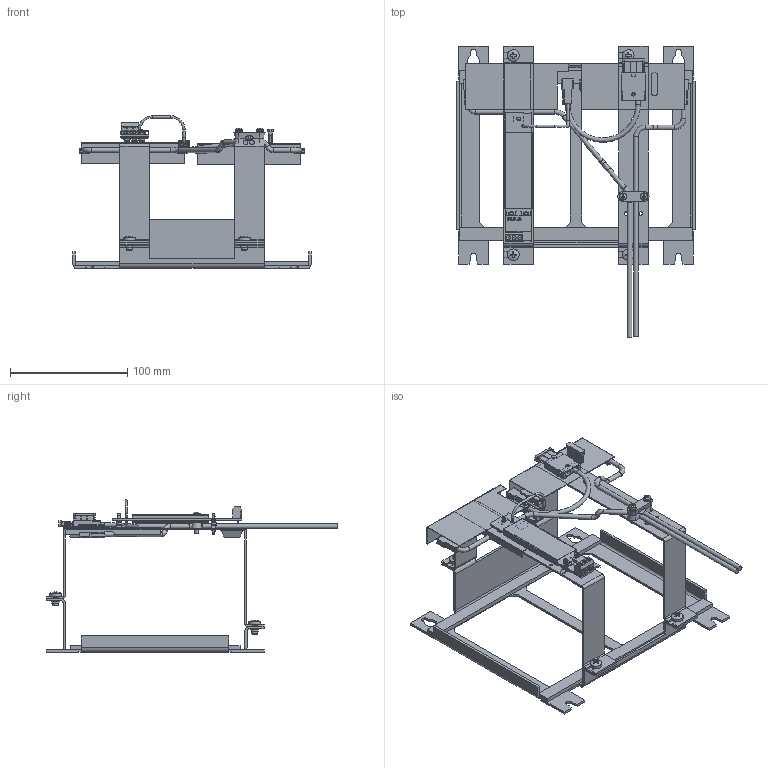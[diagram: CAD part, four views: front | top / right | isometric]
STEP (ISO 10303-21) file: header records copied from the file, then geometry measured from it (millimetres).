
FILE_DESCRIPTION((''),'2;1');
FILE_NAME('C:\Users\rahns\Desktop\Marketing\Proi2\SD1UZO24-121SR1_SC_2014-07-08.stp','2014-07-08T10:27:50',('rahns'),(''),'Autodesk Inventor 2009','Autodesk Inventor 2009','');
FILE_SCHEMA(('AUTOMOTIVE_DESIGN { 1 0 10303 214 1 1 1 1 }'));
Length unit declared in the file: millimetre
Products named in the file (38): 393; BASIS 393.05 (L); TAPE large; BATTERY HOLDER; SCREW M5x8; CABLE HOLDER; WASHER 3; ED-B30_127-10; ED-3016-7985-10; ISOLATIONSFOIL 393.00 (1); ISOLATIONSFOIL 393.00 (4)_2; ISOLATIONSFOIL 393.00 (5); FUSEHOLDER; SCREW 3x8; FUSE; SPACER; PCB HOLDER; PCB 393; AP-393.230; ep-393.235; RW-OR015-DA; XT-LP3BL-D9; FY-RGEF400-x1; AZ-393-Schrumpfschlauch; EL-393.930; XS-HOUSING_1P-22; WI-393.730; ES-ELH6-20-einbau; AZ-393 Kabel blaulang-einbau; Wire_393; EW-393; XS-STEHU6_6_T-20; EW-393.Kabel8 lang
Assembly tree (62 placements, depth 4):
  393
    BASIS 393.05 (L)
    TAPE large  x2
    BATTERY HOLDER  x2
    SCREW M5x8  x4
    CABLE HOLDER  x2
    WASHER 3  x2
    ED-B30_127-10  x2
    ED-3016-7985-10  x2
    ISOLATIONSFOIL 393.00 (1)
    ISOLATIONSFOIL 393.00 (4)_2
    ISOLATIONSFOIL 393.00 (5)
    FUSEHOLDER
    SCREW 3x8
    FUSE  x2
    SPACER  x4
    PCB HOLDER  x3
    PCB 393
      AP-393.230
        ep-393.235
        RW-OR015-DA  x7
        XT-LP3BL-D9
        FY-RGEF400-x1
        AZ-393-Schrumpfschlauch
        EL-393.930
      XS-HOUSING_1P-22
      WI-393.730
        ES-ELH6-20-einbau
        AZ-393 Kabel blaulang-einbau
    Wire_393
      XS-HOUSING_1P-22
      EW-393
      XS-STEHU6_6_T-20
    Wire_393
      XS-HOUSING_1P-22
      EW-393
    Wire_393
      XS-HOUSING_1P-22
      EW-393.Kabel8 lang
    Wire_393
      XS-HOUSING_1P-22
      EW-393
Bounding box: 203.3 x 249.01 x 130.12 mm (x, y, z)
Volume: 123042.8 mm3; surface area: 165729.6 mm2
Topology: 51 solids, 351 shells, 1832 faces, 5520 edges, 4066 vertices
Faces by surface type: plane 1008, cylinder 567, bspline 91, sphere 66, torus 53, cone 47
Full cylindrical faces by diameter (mm): 0.73 x2, 0.813 x2, 1 x24, 1.295 x14, 1.397 x3, 1.5 x1, 1.9 x1, 2 x5, 2.413 x1, 2.6 x1, 2.75 x2, 3 x9, 3.2 x6, 3.5 x3, 3.7 x4, 3.82 x2, 4 x12, 5 x4, 5.4 x2, 6 x7, 10 x4
Entity records: 38811 total; most frequent: CARTESIAN_POINT 9682, DIRECTION 5699, ORIENTED_EDGE 5152, EDGE_CURVE 2850, VERTEX_POINT 2106, AXIS2_PLACEMENT_3D 1933, VECTOR 1833, LINE 1833
